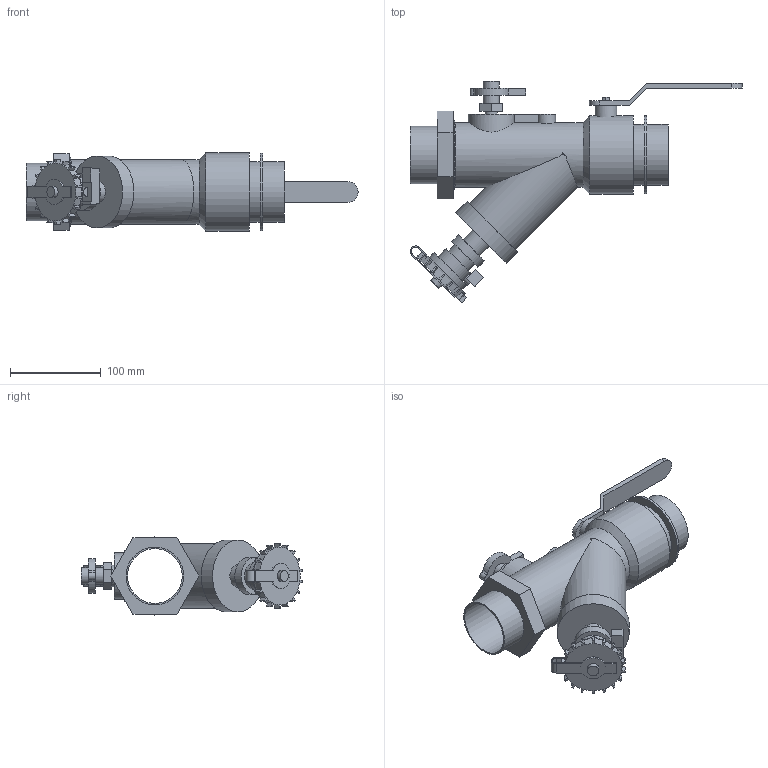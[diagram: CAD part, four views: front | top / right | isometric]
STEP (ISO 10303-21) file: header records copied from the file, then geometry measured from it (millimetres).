
FILE_DESCRIPTION(/* description */ ('VIC Y-STRAINER/BALL SERIES 78Y (FPT)','CAx-IF Rec.Pracs.---Representation and Presentation of Product Manufacturing Information (PMI)---4.0---2014-10-13'),/* implementation_level */ '2;1');
FILE_NAME(/* name */ 'C:\Users\kkamble\Desktop\extraction\OldVersions\Victaulic_IPS_Valve Ball Y Strainer Combination_Series 78Y (FPT)\Victaulic_IPS_Valve Ball Y Strainer Combination_Series 78Y (FPT)_02.0x02.0 (50x50).stp',/* time_stamp */ '2020-10-19T10:39:56+05:00',/* author */ ('kkamble'),/* organization */ ('Victaulic'),/* preprocessor_version */ 'ST-DEVELOPER v17.2',/* originating_system */ 'Autodesk Inventor 2019',/* authorisation */ '');
FILE_SCHEMA (('AP242_MANAGED_MODEL_BASED_3D_ENGINEERING_MIM_LF { 1 0 10303 442 1 1 4 }'));
Length unit declared in the file: inch
Products named in the file (1): 78Y-2.0x2.0
Bounding box: 365.76 x 243.49 x 86.11 mm (x, y, z)
Volume: 710770.1 mm3; surface area: 221076.1 mm2
Topology: 4 solids, 5 shells, 198 faces, 525 edges, 355 vertices
Faces by surface type: plane 138, cylinder 58, cone 2
Full cylindrical faces by diameter (mm): 10.16 x1, 12.565 x1, 13.462 x3, 16.002 x1, 17.78 x3, 23.876 x1, 25.4 x1, 27.94 x1, 30.48 x1, 38.1 x1, 40.64 x1, 50.8 x1, 60.325 x2, 63.5 x2, 67.056 x2, 71.374 x1, 71.501 x1, 76.2 x1, 79.248 x1, 85.852 x1, 86.106 x1
Entity records: 6868 total; most frequent: CARTESIAN_POINT 1547, DIRECTION 1104, ORIENTED_EDGE 1050, EDGE_CURVE 525, AXIS2_PLACEMENT_3D 387, VERTEX_POINT 355, LINE 330, VECTOR 330
